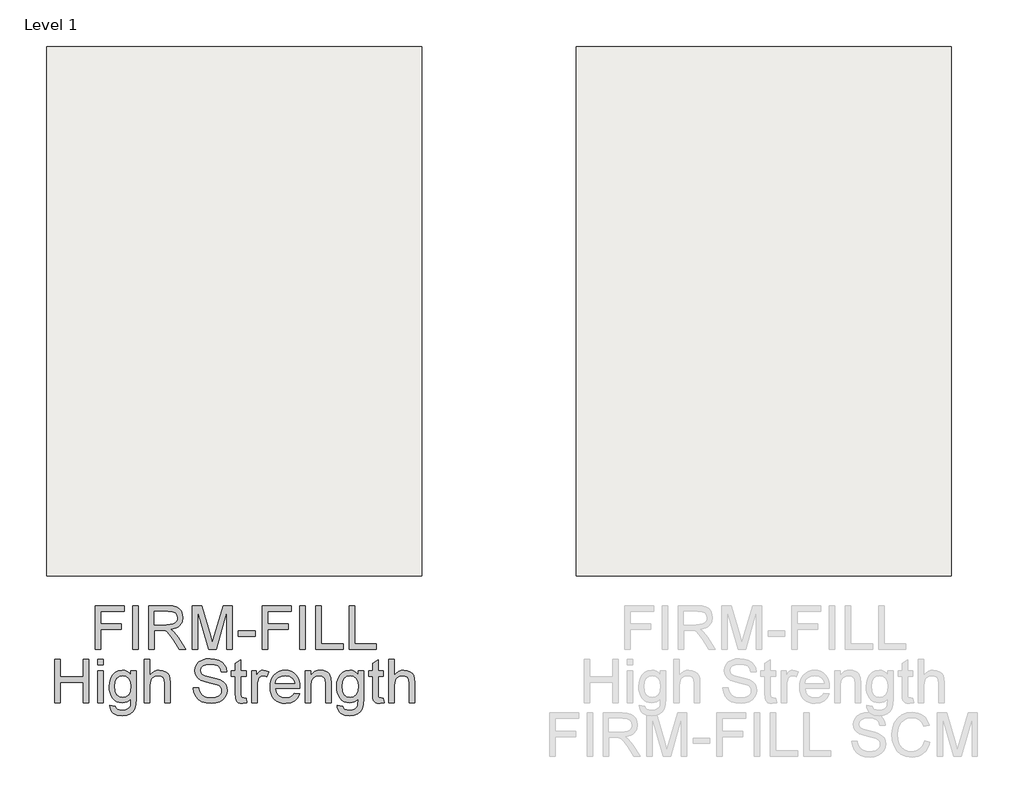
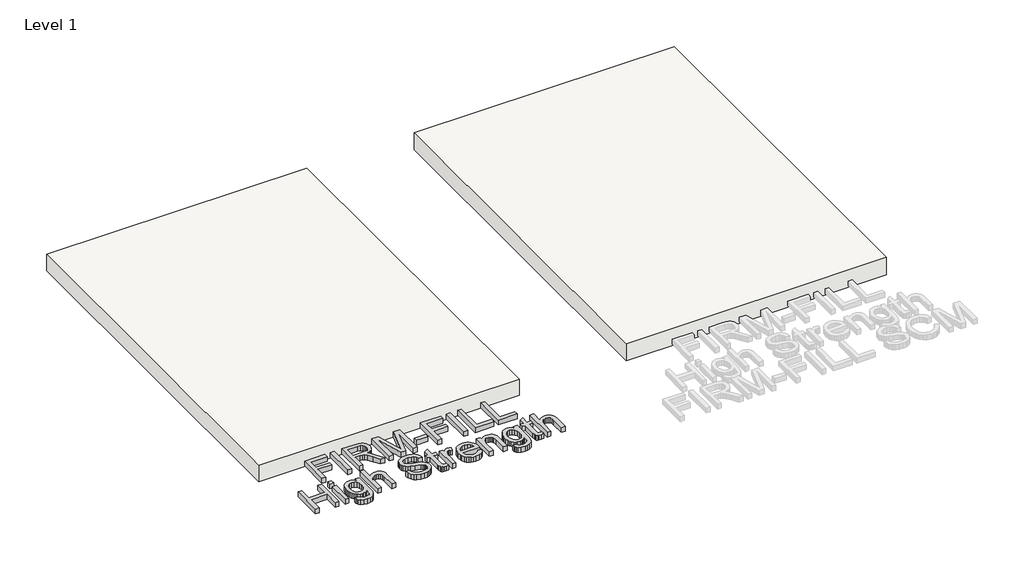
# One storey, part 1 of 2: 2 slabs, 1 proxy.
"""IFC4 building model written with IfcOpenShell, lengths in millimetres."""

from ifc_helpers import new_model, si_unit, frame, origin, origin_with_axes, place, context, project, spatial, polyline, outline, extrude, element, save

model = new_model("IFC4")

# Units and contexts
model_context = context("Model", 3, world=origin())
ifc_project = project(units=[si_unit("LENGTHUNIT", "METRE", prefix="MILLI")], contexts=[model_context])

# Site, building, storey
site = spatial("IfcSite", under=ifc_project)
building = spatial("IfcBuilding", under=site)
storey = spatial("IfcBuildingStorey", under=building, Name="Level 1", Elevation=0.0)

# Proxy
placement = place(None, origin())
element("IfcBuildingElementProxy", 1, Name="600mm Arial", ObjectType="600mm Arial", at=placement, inside=storey, context=model_context, shape_type="SweptSolid", body=[
    extrude(outline(polyline([(-12039.7227816, 282.4279894), (-12039.7227816, 582.5387586), (-11838.0858585, 582.5387586), (-11838.0858585, 545.0249125), (-12002.2089355, 545.0249125), (-12002.2089355, 455.9295279), (-11861.5320124, 455.9295279), (-11861.5320124, 418.4156817), (-12002.2089355, 418.4156817), (-12002.2089355, 282.4279894), (-12039.7227816, 282.4279894)])), origin_with_axes(), (0.0, 0.0, 1.0), 50.8),
    extrude(outline(polyline([(-11781.8150893, 282.4279894), (-11781.8150893, 582.5387586), (-11744.3012432, 582.5387586), (-11744.3012432, 282.4279894), (-11781.8150893, 282.4279894)])), origin_with_axes(), (0.0, 0.0, 1.0), 50.8),
    extrude(outline(polyline([(-11669.2735509, 282.4279894), (-11669.2735509, 582.5387586), (-11539.9533585, 582.5387586), (-11505.1962672, 580.5146961), (-11479.9092239, 574.4425086), (-11461.4270605, 563.2323163), (-11447.0846085, 545.7942394), (-11437.8801614, 524.1706577), (-11434.8120124, 500.4039509), (-11439.8950653, 470.8398163), (-11455.1442239, 446.3312586), (-11466.6955761, 436.3437466), (-11481.017421, 428.3619798), (-11517.9725893, 418.4156817), (-11496.6512432, 402.3697202), (-11466.2445124, 363.7568356), (-11416.2016278, 282.4279894), (-11459.7968201, 282.4279894), (-11498.8493201, 344.6335663), (-11527.0579739, 385.810874), (-11546.8773009, 405.2638548), (-11564.7183585, 412.4076048), (-11586.4793201, 413.7264509), (-11631.7597047, 413.7264509), (-11631.7597047, 282.4279894), (-11669.2735509, 282.4279894)]), holes=[polyline([(-11631.7597047, 451.2402971), (-11547.7931662, 451.2402971), (-11523.6784307, 452.5683019), (-11504.9673009, 456.5523163), (-11490.8812912, 463.4579413), (-11480.6419162, 473.5507779), (-11474.404873, 485.7592634), (-11472.3258585, 499.0118356), (-11476.2915557, 517.3108259), (-11488.188647, 532.0562586), (-11508.6582384, 541.782749), (-11538.3414355, 545.0249125), (-11631.7597047, 545.0249125), (-11631.7597047, 451.2402971)])]), origin_with_axes(), (0.0, 0.0, 1.0), 50.8),
    extrude(outline(polyline([(-11369.1627816, 282.4279894), (-11369.1627816, 582.5387586), (-11304.6125893, 582.5387586), (-11243.2129739, 371.0104894), (-11230.8304739, 326.8291433), (-11217.4222047, 374.6739509), (-11157.0483585, 582.5387586), (-11092.4981662, 582.5387586), (-11092.4981662, 282.4279894), (-11130.0120124, 282.4279894), (-11130.0120124, 545.0249125), (-11205.4060509, 282.4279894), (-11256.254897, 282.4279894), (-11331.6489355, 545.0249125), (-11331.6489355, 282.4279894), (-11369.1627816, 282.4279894)])), origin_with_axes(), (0.0, 0.0, 1.0), 50.8),
    extrude(outline(polyline([(-11050.2950893, 371.523374), (-11050.2950893, 409.0372202), (-10933.0643201, 409.0372202), (-10933.0643201, 371.523374), (-11050.2950893, 371.523374)])), origin_with_axes(), (0.0, 0.0, 1.0), 50.8),
    extrude(outline(polyline([(-10886.1720124, 282.4279894), (-10886.1720124, 582.5387586), (-10684.5350893, 582.5387586), (-10684.5350893, 545.0249125), (-10848.6581662, 545.0249125), (-10848.6581662, 455.9295279), (-10707.9812432, 455.9295279), (-10707.9812432, 418.4156817), (-10848.6581662, 418.4156817), (-10848.6581662, 282.4279894), (-10886.1720124, 282.4279894)])), origin_with_axes(), (0.0, 0.0, 1.0), 50.8),
    extrude(outline(polyline([(-10628.2643201, 282.4279894), (-10628.2643201, 582.5387586), (-10590.7504739, 582.5387586), (-10590.7504739, 282.4279894), (-10628.2643201, 282.4279894)])), origin_with_axes(), (0.0, 0.0, 1.0), 50.8),
    extrude(outline(polyline([(-10515.7227816, 282.4279894), (-10515.7227816, 582.5387586), (-10478.2089355, 582.5387586), (-10478.2089355, 319.9418356), (-10328.1535509, 319.9418356), (-10328.1535509, 282.4279894), (-10515.7227816, 282.4279894)])), origin_with_axes(), (0.0, 0.0, 1.0), 50.8),
    extrude(outline(polyline([(-10285.9504739, 282.4279894), (-10285.9504739, 582.5387586), (-10248.4366278, 582.5387586), (-10248.4366278, 319.9418356), (-10098.3812432, 319.9418356), (-10098.3812432, 282.4279894), (-10285.9504739, 282.4279894)])), origin_with_axes(), (0.0, 0.0, 1.0), 50.8),
    extrude(outline(polyline([(-12318.7320124, -88.0212414), (-12318.7320124, 212.0895279), (-12281.2181662, 212.0895279), (-12281.2181662, 90.1695279), (-12121.7843201, 90.1695279), (-12121.7843201, 212.0895279), (-12084.2704739, 212.0895279), (-12084.2704739, -88.0212414), (-12121.7843201, -88.0212414), (-12121.7843201, 52.6556817), (-12281.2181662, 52.6556817), (-12281.2181662, -88.0212414), (-12318.7320124, -88.0212414)])), origin_with_axes(), (0.0, 0.0, 1.0), 50.8),
    extrude(outline(polyline([(-12023.3104739, -88.0212414), (-12023.3104739, 132.3726048), (-11985.7966278, 132.3726048), (-11985.7966278, -88.0212414), (-12023.3104739, -88.0212414)])), origin_with_axes(), (0.0, 0.0, 1.0), 50.8),
    extrude(outline(polyline([(-12023.3104739, 174.5756817), (-12023.3104739, 212.0895279), (-11985.7966278, 212.0895279), (-11985.7966278, 174.5756817), (-12023.3104739, 174.5756817)])), origin_with_axes(), (0.0, 0.0, 1.0), 50.8),
    extrude(outline(polyline([(-11938.9043201, -106.7781644), (-11901.3904739, -111.4673952), (-11897.2507624, -123.1904721), (-11889.2277816, -131.2500875), (-11873.4565797, -137.5146067), (-11852.8129739, -139.6027798), (-11830.7955701, -137.2398471), (-11814.419897, -130.1510491), (-11803.0631662, -118.7943183), (-11796.1025893, -103.6275875), (-11793.5381662, -59.8858567), (-11806.0214114, -72.1950875), (-11819.9517239, -80.9873952), (-11835.3291037, -86.2627798), (-11852.1535509, -88.0212414), (-11872.7215977, -85.9742822), (-11890.830546, -79.8334048), (-11906.4803958, -69.5986091), (-11919.671147, -55.2698952), (-11930.1371987, -38.0791019), (-11937.6129499, -19.2580683), (-11942.0984006, 1.1932058), (-11943.5935509, 23.2747202), (-11940.9100653, 53.5623884), (-11932.8596085, 81.4138548), (-11919.7260989, 105.0157058), (-11901.7934547, 122.5545279), (-11879.6753057, 133.4350086), (-11853.9852816, 137.0618356), (-11836.4418802, 135.0102971), (-11820.5195605, 128.8556817), (-11806.2183225, 118.5979894), (-11793.5381662, 104.2372202), (-11793.5381662, 132.3726048), (-11756.0243201, 132.3726048), (-11756.0243201, -57.9075875), (-11758.5887432, -101.84165), (-11766.2820124, -130.7738375), (-11779.5345845, -149.9612173), (-11798.7769162, -164.6608567), (-11823.5877095, -174.0026837), (-11853.5456662, -177.116626), (-11888.449296, -172.7296308), (-11915.9344162, -159.5686452), (-11926.2859847, -149.6887474), (-11933.5648249, -137.5970346), (-11937.7709367, -123.293507), (-11938.9043201, -106.7781644)]), holes=[polyline([(-11906.0797047, 25.8391433), (-11902.077373, -8.5699192), (-11890.0703778, -32.2267221), (-11872.018671, -45.9372269), (-11849.8822047, -50.5073952), (-11827.9105941, -45.9647029), (-11809.7673009, -32.336626), (-11797.5954499, -8.9820587), (-11793.5381662, 24.7401048), (-11797.7145124, 57.2624846), (-11810.2435509, 80.6811625), (-11828.6524451, 94.8312827), (-11850.4683585, 99.5479894), (-11871.8904499, 94.9045519), (-11889.8505701, 80.9742394), (-11902.022421, 57.9035904), (-11906.0797047, 25.8391433)])]), origin_with_axes(), (0.0, 0.0, 1.0), 50.8),
    extrude(outline(polyline([(-11699.7535509, -88.0212414), (-11699.7535509, 212.0895279), (-11662.2397047, 212.0895279), (-11662.2397047, 101.7460663), (-11648.46051, 117.1967154), (-11632.9869643, 128.2328933), (-11615.8190677, 134.8546), (-11596.9568201, 137.0618356), (-11574.2983105, 134.6531096), (-11554.8270124, 127.4269317), (-11539.4954259, 115.9511384), (-11529.2560509, 100.7935663), (-11523.4860989, 79.9667875), (-11521.5627816, 51.483374), (-11521.5627816, -88.0212414), (-11559.0766278, -88.0212414), (-11559.0766278, 47.6001048), (-11562.0623489, 71.0828933), (-11571.0195124, 87.1654894), (-11585.4535509, 96.4523644), (-11604.869897, 99.5479894), (-11620.7235268, 97.4598163), (-11635.6063393, 91.1952971), (-11647.9338874, 81.3589029), (-11656.1217239, 68.5551048), (-11660.7102095, 51.5383259), (-11662.2397047, 29.0629894), (-11662.2397047, -88.0212414), (-11699.7535509, -88.0212414)])), origin_with_axes(), (0.0, 0.0, 1.0), 50.8),
    extrude(outline(polyline([(-11362.1289355, 15.1418356), (-11324.6150893, 15.1418356), (-11320.310522, -5.6757846), (-11312.5256662, -22.4086452), (-11300.3812912, -35.6886933), (-11282.9981662, -46.147876), (-11261.7500893, -52.9344385), (-11238.0108585, -55.196626), (-11217.1108105, -53.4839577), (-11198.8118201, -48.3459529), (-11183.9839595, -40.2130683), (-11173.4973009, -29.5157606), (-11167.2602576, -17.2340058), (-11165.1812432, -4.3477798), (-11166.7382143, 8.2087346), (-11171.4091278, 19.0617394), (-11180.8974932, 28.3211384), (-11196.9068201, 36.0968356), (-11251.5290316, 50.4209702), (-11287.3851614, 59.9001769), (-11310.3275893, 68.9214509), (-11329.0020845, 81.5420759), (-11342.2363393, 96.8370279), (-11350.1219403, 114.4765952), (-11352.7504739, 134.1310663), (-11349.4991518, 156.1026769), (-11339.7451855, 176.5905856), (-11323.7450172, 193.9553933), (-11301.7550893, 206.5577009), (-11275.3598489, 214.2234942), (-11246.1437432, 216.7787586), (-11214.4914355, 214.1044317), (-11186.7956662, 206.0814509), (-11164.0455701, 192.8746721), (-11147.2302816, 174.6489509), (-11136.5879259, 152.5399606), (-11132.3566278, 127.683374), (-11169.8704739, 127.683374), (-11176.7577816, 150.067124), (-11191.1185509, 166.2229894), (-11213.5572528, 176.0044317), (-11244.6783585, 179.2649125), (-11276.5321566, 176.0410663), (-11298.3847047, 166.3695279), (-11311.023647, 152.1369798), (-11315.2366278, 135.2301048), (-11312.2509066, 120.8143836), (-11303.2937432, 109.2195279), (-11282.1189355, 98.8519317), (-11242.0406662, 88.2645279), (-11200.6801855, 78.2083259), (-11175.6587432, 69.4343356), (-11154.2732864, 55.8245759), (-11139.3538393, 39.0276048), (-11130.5890076, 19.2265952), (-11127.667397, -3.3952798), (-11131.028623, -26.5208808), (-11141.1123009, -48.2726837), (-11157.5062912, -66.9929721), (-11179.7984547, -81.0240298), (-11206.6058345, -89.7888616), (-11236.5454739, -92.7104721), (-11273.2991518, -89.5598952), (-11303.5501855, -80.1081644), (-11327.6466037, -64.3186452), (-11345.9364355, -42.1547029), (-11357.6778297, -15.1549914), (-11362.1289355, 15.1418356)])), origin_with_axes(), (0.0, 0.0, 1.0), 50.8),
    extrude(outline(polyline([(-10996.3689355, -56.7352798), (-10991.6797047, -89.1202798), (-11019.7418201, -92.7104721), (-11037.7477335, -91.153501), (-11051.1743201, -86.4825875), (-11060.6626855, -79.2838856), (-11066.8539355, -70.1435491), (-11070.2609547, -54.4456164), (-11071.3966278, -27.574126), (-11071.3966278, 94.8587586), (-11099.5320124, 94.8587586), (-11099.5320124, 132.3726048), (-11071.3966278, 132.3726048), (-11071.3966278, 185.9324125), (-11033.8827816, 207.9864509), (-11033.8827816, 132.3726048), (-10996.3689355, 132.3726048), (-10996.3689355, 94.8587586), (-11033.8827816, 94.8587586), (-11033.8827816, -26.4750875), (-11031.9045124, -45.8181644), (-11025.4934547, -52.6688375), (-11012.7079739, -55.196626), (-10996.3689355, -56.7352798)])), origin_with_axes(), (0.0, 0.0, 1.0), 50.8),
    extrude(outline(polyline([(-10958.8550893, -88.0212414), (-10958.8550893, 132.3726048), (-10926.0304739, 132.3726048), (-10926.0304739, 99.7677971), (-10913.9044162, 118.6712586), (-10902.7308585, 129.8081817), (-10891.5206662, 135.2484221), (-10879.2847047, 137.0618356), (-10860.6010509, 134.1677009), (-10841.6243201, 125.4852971), (-10854.1533585, 91.8547202), (-10867.3418201, 97.6246721), (-10880.5302816, 99.5479894), (-10891.7313153, 97.6979413), (-10901.7417239, 92.1477971), (-10909.8288153, 83.3188548), (-10915.259897, 71.6324125), (-10919.8209066, 50.6774125), (-10921.3412432, 27.8174125), (-10921.3412432, -88.0212414), (-10958.8550893, -88.0212414)])), origin_with_axes(), (0.0, 0.0, 1.0), 50.8),
    extrude(outline(polyline([(-10663.8731662, -22.3720106), (-10627.0920124, -27.0612414), (-10640.3445845, -54.7753279), (-10661.4919162, -75.4922029), (-10690.0577576, -88.4059048), (-10725.5658585, -92.7104721), (-10748.8425773, -90.8535551), (-10769.5823489, -85.2828039), (-10787.7851735, -75.9982185), (-10803.4510509, -62.9997991), (-10816.0487792, -46.6493123), (-10825.0471566, -27.308525), (-10830.4461831, -4.9774373), (-10832.2458585, 20.3439509), (-10830.4278658, 46.523963), (-10824.9738874, 69.5991913), (-10815.8839235, 89.569636), (-10803.1579739, 106.4352971), (-10787.5333105, 119.8344077), (-10769.7472047, 129.4052009), (-10749.7996566, 135.1476769), (-10727.6906662, 137.0618356), (-10706.2937612, 135.1522562), (-10686.9438153, 129.4235183), (-10669.6408285, 119.8756216), (-10654.3848009, 106.5085663), (-10641.9313213, 89.6795399), (-10633.0359787, 69.7457298), (-10627.6987732, 46.707136), (-10625.9197047, 20.5637586), (-10626.1395124, 10.4526048), (-10794.7320124, 10.4526048), (-10788.2385268, -17.6278279), (-10773.1542239, -38.2714337), (-10751.3841037, -50.9653279), (-10724.8331662, -55.196626), (-10704.8673009, -53.2366741), (-10688.0520124, -47.3568183), (-10674.3873009, -37.1907125), (-10663.8731662, -22.3720106)]), holes=[polyline([(-10794.7320124, 47.9664509), (-10663.4335509, 47.9664509), (-10668.5074451, 67.7857779), (-10678.4537432, 81.963374), (-10700.3246085, 95.1518356), (-10727.8372047, 99.5479894), (-10753.124248, 96.040225), (-10774.0334547, 85.5169317), (-10788.5682384, 69.1137827), (-10794.7320124, 47.9664509)])]), origin_with_axes(), (0.0, 0.0, 1.0), 50.8),
    extrude(outline(polyline([(-10588.4058585, -88.0212414), (-10588.4058585, 132.3726048), (-10550.8920124, 132.3726048), (-10550.8920124, 101.5995279), (-10537.859248, 117.1142875), (-10522.2071085, 128.1962586), (-10503.9355941, 134.8454413), (-10483.0447047, 137.0618356), (-10464.5533826, 135.2758981), (-10447.6190316, 129.9180856), (-10433.4963874, 121.6569798), (-10423.4401855, 111.1611625), (-10412.1933585, 83.5752971), (-10410.2150893, 47.3070279), (-10410.2150893, -88.0212414), (-10447.7289355, -88.0212414), (-10447.7289355, 42.2514509), (-10452.0518201, 75.4424125), (-10458.032421, 85.3246), (-10467.3284547, 92.9903933), (-10479.2438634, 97.9085904), (-10493.0825893, 99.5479894), (-10515.0541999, 95.8662106), (-10533.783647, 84.820874), (-10541.2685569, 75.8041793), (-10546.614921, 63.4812106), (-10550.8920124, 28.9164509), (-10550.8920124, -88.0212414), (-10588.4058585, -88.0212414)])), origin_with_axes(), (0.0, 0.0, 1.0), 50.8),
    extrude(outline(polyline([(-10368.0120124, -106.7781644), (-10330.4981662, -111.4673952), (-10326.3584547, -123.1904721), (-10318.3354739, -131.2500875), (-10302.564272, -137.5146067), (-10281.9206662, -139.6027798), (-10259.9032624, -137.2398471), (-10243.5275893, -130.1510491), (-10232.1708585, -118.7943183), (-10225.2102816, -103.6275875), (-10222.6458585, -59.8858567), (-10235.1291037, -72.1950875), (-10249.0594162, -80.9873952), (-10264.436796, -86.2627798), (-10281.2612432, -88.0212414), (-10301.82929, -85.9742822), (-10319.9382384, -79.8334048), (-10335.5880881, -69.5986091), (-10348.7788393, -55.2698952), (-10359.244891, -38.0791019), (-10366.7206422, -19.2580683), (-10371.2060929, 1.1932058), (-10372.7012432, 23.2747202), (-10370.0177576, 53.5623884), (-10361.9673009, 81.4138548), (-10348.8337912, 105.0157058), (-10330.901147, 122.5545279), (-10308.782998, 133.4350086), (-10283.0929739, 137.0618356), (-10265.5495725, 135.0102971), (-10249.6272528, 128.8556817), (-10235.3260148, 118.5979894), (-10222.6458585, 104.2372202), (-10222.6458585, 132.3726048), (-10185.1320124, 132.3726048), (-10185.1320124, -57.9075875), (-10187.6964355, -101.84165), (-10195.3897047, -130.7738375), (-10208.6422768, -149.9612173), (-10227.8846085, -164.6608567), (-10252.6954018, -174.0026837), (-10282.6533585, -177.116626), (-10317.5569884, -172.7296308), (-10345.0421085, -159.5686452), (-10355.3936771, -149.6887474), (-10362.6725172, -137.5970346), (-10366.878629, -123.293507), (-10368.0120124, -106.7781644)]), holes=[polyline([(-10335.187397, 25.8391433), (-10331.1850653, -8.5699192), (-10319.1780701, -32.2267221), (-10301.1263634, -45.9372269), (-10278.989897, -50.5073952), (-10257.0182864, -45.9647029), (-10238.8749932, -32.336626), (-10226.7031422, -8.9820587), (-10222.6458585, 24.7401048), (-10226.8222047, 57.2624846), (-10239.3512432, 80.6811625), (-10257.7601374, 94.8312827), (-10279.5760509, 99.5479894), (-10300.9981422, 94.9045519), (-10318.9582624, 80.9742394), (-10331.1301134, 57.9035904), (-10335.187397, 25.8391433)])]), origin_with_axes(), (0.0, 0.0, 1.0), 50.8),
    extrude(outline(polyline([(-10049.1443201, -56.7352798), (-10044.4550893, -89.1202798), (-10072.5172047, -92.7104721), (-10090.5231182, -91.153501), (-10103.9497047, -86.4825875), (-10113.4380701, -79.2838856), (-10119.6293201, -70.1435491), (-10123.0363393, -54.4456164), (-10124.1720124, -27.574126), (-10124.1720124, 94.8587586), (-10152.307397, 94.8587586), (-10152.307397, 132.3726048), (-10124.1720124, 132.3726048), (-10124.1720124, 185.9324125), (-10086.6581662, 207.9864509), (-10086.6581662, 132.3726048), (-10049.1443201, 132.3726048), (-10049.1443201, 94.8587586), (-10086.6581662, 94.8587586), (-10086.6581662, -26.4750875), (-10084.679897, -45.8181644), (-10078.2688393, -52.6688375), (-10065.4833585, -55.196626), (-10049.1443201, -56.7352798)])), origin_with_axes(), (0.0, 0.0, 1.0), 50.8),
    extrude(outline(polyline([(-10011.6304739, -88.0212414), (-10011.6304739, 212.0895279), (-9974.1166278, 212.0895279), (-9974.1166278, 101.7460663), (-9960.3374331, 117.1967154), (-9944.8638874, 128.2328933), (-9927.6959908, 134.8546), (-9908.8337432, 137.0618356), (-9886.1752335, 134.6531096), (-9866.7039355, 127.4269317), (-9851.3723489, 115.9511384), (-9841.1329739, 100.7935663), (-9835.363022, 79.9667875), (-9833.4397047, 51.483374), (-9833.4397047, -88.0212414), (-9870.9535509, -88.0212414), (-9870.9535509, 47.6001048), (-9873.939272, 71.0828933), (-9882.8964355, 87.1654894), (-9897.3304739, 96.4523644), (-9916.7468201, 99.5479894), (-9932.6004499, 97.4598163), (-9947.4832624, 91.1952971), (-9959.8108105, 81.3589029), (-9967.998647, 68.5551048), (-9972.5871326, 51.5383259), (-9974.1166278, 29.0629894), (-9974.1166278, -88.0212414), (-10011.6304739, -88.0212414)])), origin_with_axes(), (0.0, 0.0, 1.0), 50.8),
])

# Slabs
element("IfcSlab", 2, ObjectType="Hacker - Concrete - Subfloor Underlayment - FIRM-FILL High Strength", at=placement, inside=storey, context=model_context, shape_type="SweptSolid", body=[
    extrude(outline(polyline([(-9785.3750893, 4448.0279894), (-9785.3750893, 790.4279894), (-12376.1750893, 790.4279894), (-12376.1750893, 4448.0279894), (-9785.3750893, 4448.0279894)])), frame((0.0, 0.0, -171.5492188), z_axis=(0.0, 0.0, 1.0), x_axis=(1.0, 0.0, 0.0)), (0.0, 0.0, 1.0), 171.5492188),
])
element("IfcSlab", 3, ObjectType="Hacker - Concrete - Subfloor Underlayment - FIRM-FILL High Strength - FIRM-FILL SCM", at=placement, inside=storey, context=model_context, shape_type="SweptSolid", body=[
    extrude(outline(polyline([(-6127.7750893, 4448.0279894), (-6127.7750893, 790.4279894), (-8718.5750893, 790.4279894), (-8718.5750893, 4448.0279894), (-6127.7750893, 4448.0279894)])), frame((0.0, 0.0, -180.8757812), z_axis=(0.0, 0.0, 1.0), x_axis=(1.0, 0.0, 0.0)), (0.0, 0.0, 1.0), 180.8757812),
])

save(model, "model.ifc")
